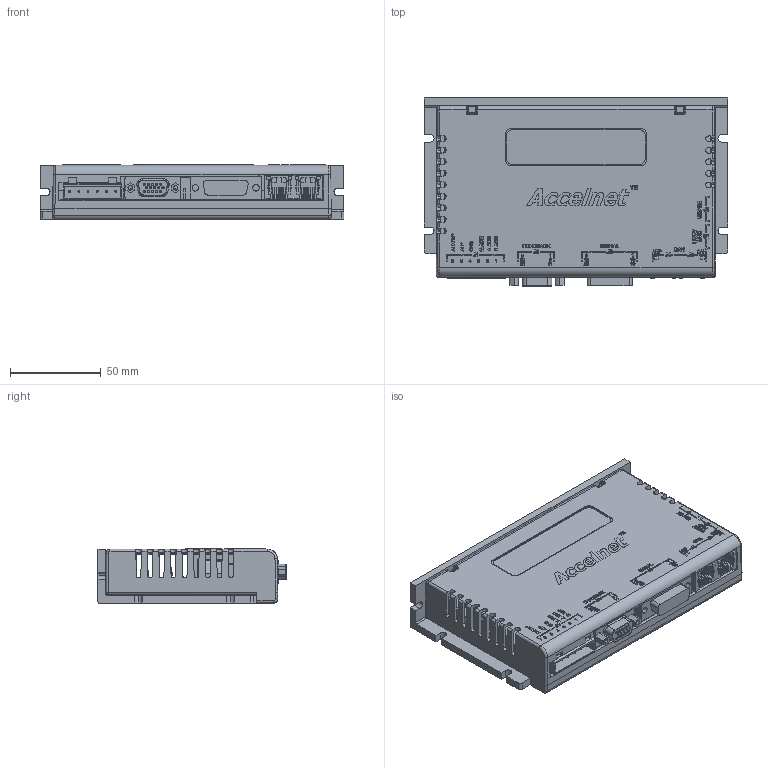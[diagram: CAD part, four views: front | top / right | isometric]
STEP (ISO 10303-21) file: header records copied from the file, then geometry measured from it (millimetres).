
FILE_DESCRIPTION (( 'STEP AP203' ), '1' );
FILE_NAME ('ADP.STEP', '2015-02-18T15:24:11', ( 'tempadmin' ), ( 'Microsoft' ), 'SwSTEP 2.0', 'SolidWorks 2014', '' );
FILE_SCHEMA (( 'CONFIG_CONTROL_DESIGN' ));
Length unit declared in the file: inch
Products named in the file (22): 57-00569-000; PEM# BSOS-440-12; 06-00722-000; 57-00589-000; 09-01211-000; 55-00354-000; 02-01311-000; 07-01310-000; ADP; 43-00319-000; 14-00238-000_Bent Leads; 06-00531-000; 153-002909; 06-00530-000; 19-00151-000; 06-00446-000; 153-002711; 05-01228-000; 15-003409; PEM# SOS-440-4; 62-00322-000
Assembly tree (46 placements, depth 4):
  ADP
    05-01228-000
      09-01211-000
        09-01211-000
        PEM# SOS-440-4  x6
        PEM# BSOS-440-12  x3
      02-01311-000
        07-01310-000
        14-00238-000_Bent Leads  x6
        153-002909
        19-00151-000
        153-002711
        15-003409
        57-00569-000
        57-00589-000
      43-00319-000
      06-00531-000  x3
      06-00530-000  x6
      06-00446-000  x6
    62-00322-000
    06-00722-000  x2
    55-00354-000
Bounding box: 167 x 103.49 x 29.84 mm (x, y, z)
Volume: 171479 mm3; surface area: 153010.5 mm2
Topology: 43 solids, 43 shells, 4975 faces, 13178 edges, 8571 vertices
Faces by surface type: plane 2999, cylinder 1024, bspline 615, cone 281, torus 52, sphere 4
Entity records: 152086 total; most frequent: CARTESIAN_POINT 56184, ORIENTED_EDGE 20634, DIRECTION 16822, EDGE_CURVE 10317, LINE 7168, VECTOR 7168, VERTEX_POINT 6767, AXIS2_PLACEMENT_3D 4827
